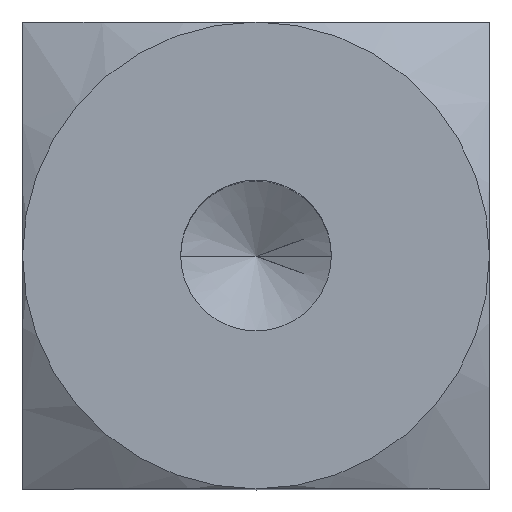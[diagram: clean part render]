
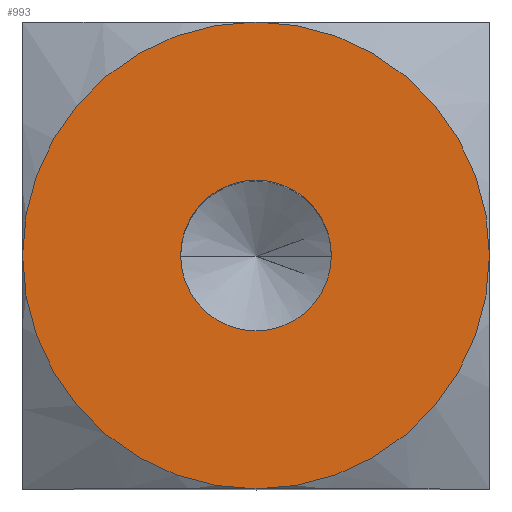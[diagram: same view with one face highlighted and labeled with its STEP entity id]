
A CAD part, top view. The second image highlights one B-rep face of the part: STEP entity #993.
In plain terms, the highlighted planar face has unit normal (0, 0, 1).
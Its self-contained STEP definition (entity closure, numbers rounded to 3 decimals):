
#22 = EDGE_CURVE ( 'NONE', #926, #304, #325, .T. ) ;
#64 = EDGE_CURVE ( 'NONE', #535, #156, #575, .T. ) ;
#69 = CARTESIAN_POINT ( 'NONE',  ( 0., 0., 17. ) ) ;
#77 = VERTEX_POINT ( 'NONE', #893 ) ;
#85 = EDGE_CURVE ( 'NONE', #304, #926, #189, .T. ) ;
#89 = DIRECTION ( 'NONE',  ( 1., 0., 0. ) ) ;
#112 = DIRECTION ( 'NONE',  ( 1., 0., 0. ) ) ;
#128 = CIRCLE ( 'NONE', #256, 6.5 ) ;
#133 = AXIS2_PLACEMENT_3D ( 'NONE', #355, #975, #994 ) ;
#156 = VERTEX_POINT ( 'NONE', #336 ) ;
#163 = ORIENTED_EDGE ( 'NONE', *, *, #64, .T. ) ;
#169 = CARTESIAN_POINT ( 'NONE',  ( -2.1, 0., 17. ) ) ;
#185 = ORIENTED_EDGE ( 'NONE', *, *, #843, .T. ) ;
#189 = CIRCLE ( 'NONE', #1002, 2.1 ) ;
#218 = ORIENTED_EDGE ( 'NONE', *, *, #85, .F. ) ;
#219 = CIRCLE ( 'NONE', #237, 6.5 ) ;
#237 = AXIS2_PLACEMENT_3D ( 'NONE', #69, #868, #606 ) ;
#255 = EDGE_CURVE ( 'NONE', #156, #564, #128, .T. ) ;
#256 = AXIS2_PLACEMENT_3D ( 'NONE', #691, #596, #296 ) ;
#296 = DIRECTION ( 'NONE',  ( -1., 0., 0. ) ) ;
#304 = VERTEX_POINT ( 'NONE', #607 ) ;
#319 = AXIS2_PLACEMENT_3D ( 'NONE', #482, #423, #960 ) ;
#325 = CIRCLE ( 'NONE', #690, 2.1 ) ;
#330 = CARTESIAN_POINT ( 'NONE',  ( 0., 0., 17. ) ) ;
#335 = CARTESIAN_POINT ( 'NONE',  ( 6.5, 0., 17. ) ) ;
#336 = CARTESIAN_POINT ( 'NONE',  ( 0., 6.5, 17. ) ) ;
#355 = CARTESIAN_POINT ( 'NONE',  ( 6.578, -6.578, 17. ) ) ;
#376 = ORIENTED_EDGE ( 'NONE', *, *, #768, .T. ) ;
#406 = DIRECTION ( 'NONE',  ( -1., 0., 0. ) ) ;
#423 = DIRECTION ( 'NONE',  ( 0., 0., 1. ) ) ;
#480 = DIRECTION ( 'NONE',  ( 0., 0., 1. ) ) ;
#482 = CARTESIAN_POINT ( 'NONE',  ( 0., 0., 17. ) ) ;
#484 = CARTESIAN_POINT ( 'NONE',  ( 0., 0., 17. ) ) ;
#506 = FACE_OUTER_BOUND ( 'NONE', #886, .T. ) ;
#535 = VERTEX_POINT ( 'NONE', #335 ) ;
#564 = VERTEX_POINT ( 'NONE', #578 ) ;
#575 = CIRCLE ( 'NONE', #1016, 6.5 ) ;
#578 = CARTESIAN_POINT ( 'NONE',  ( -6.5, 0., 17. ) ) ;
#596 = DIRECTION ( 'NONE',  ( 0., 0., 1. ) ) ;
#606 = DIRECTION ( 'NONE',  ( -1., 0., 0. ) ) ;
#607 = CARTESIAN_POINT ( 'NONE',  ( 2.1, 0., 17. ) ) ;
#654 = PLANE ( 'NONE',  #133 ) ;
#690 = AXIS2_PLACEMENT_3D ( 'NONE', #791, #480, #89 ) ;
#691 = CARTESIAN_POINT ( 'NONE',  ( 0., 0., 17. ) ) ;
#746 = ORIENTED_EDGE ( 'NONE', *, *, #22, .F. ) ;
#768 = EDGE_CURVE ( 'NONE', #564, #77, #219, .T. ) ;
#771 = CIRCLE ( 'NONE', #319, 6.5 ) ;
#791 = CARTESIAN_POINT ( 'NONE',  ( 0., 0., 17. ) ) ;
#792 = ORIENTED_EDGE ( 'NONE', *, *, #255, .T. ) ;
#796 = DIRECTION ( 'NONE',  ( 0., 0., 1. ) ) ;
#825 = FACE_BOUND ( 'NONE', #881, .T. ) ;
#843 = EDGE_CURVE ( 'NONE', #77, #535, #771, .T. ) ;
#868 = DIRECTION ( 'NONE',  ( 0., 0., 1. ) ) ;
#880 = DIRECTION ( 'NONE',  ( 0., 0., 1. ) ) ;
#881 = EDGE_LOOP ( 'NONE', ( #218, #746 ) ) ;
#886 = EDGE_LOOP ( 'NONE', ( #376, #185, #163, #792 ) ) ;
#893 = CARTESIAN_POINT ( 'NONE',  ( 0., -6.5, 17. ) ) ;
#926 = VERTEX_POINT ( 'NONE', #169 ) ;
#960 = DIRECTION ( 'NONE',  ( -1., 0., 0. ) ) ;
#975 = DIRECTION ( 'NONE',  ( 0., 0., -1. ) ) ;
#993 = ADVANCED_FACE ( 'NONE', ( #825, #506 ), #654, .F. ) ;
#994 = DIRECTION ( 'NONE',  ( -1., 0., 0. ) ) ;
#1002 = AXIS2_PLACEMENT_3D ( 'NONE', #484, #880, #112 ) ;
#1016 = AXIS2_PLACEMENT_3D ( 'NONE', #330, #796, #406 ) ;
